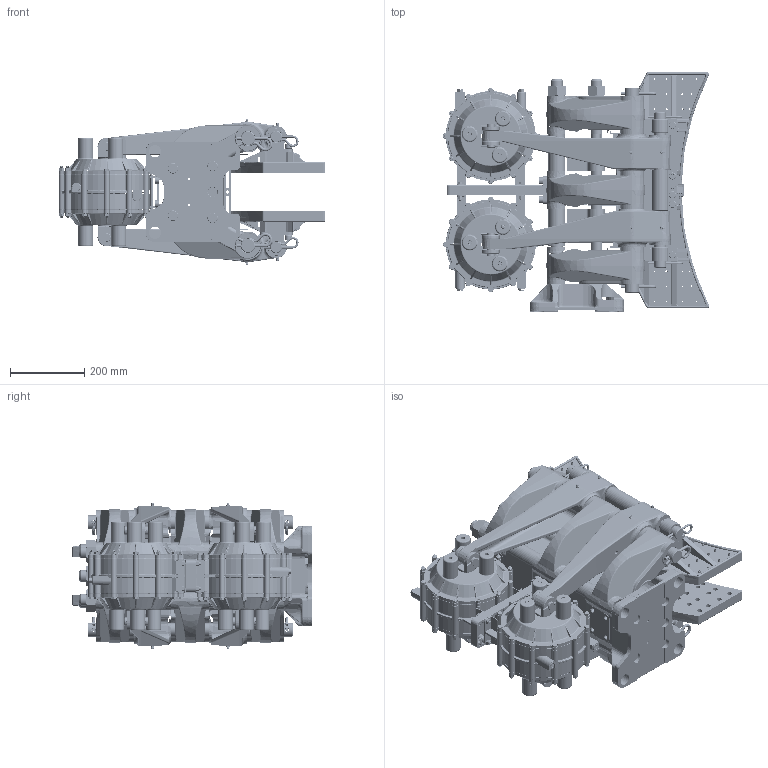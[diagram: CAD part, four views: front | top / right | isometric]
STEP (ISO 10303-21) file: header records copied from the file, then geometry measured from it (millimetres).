
FILE_DESCRIPTION (( 'STEP AP214' ), '1' );
FILE_NAME ('5030-A_revD.STEP', '2022-10-20T16:57:02', ( '' ), ( '' ), 'SwSTEP 2.0', 'SolidWorks 2021', '' );
FILE_SCHEMA (( 'AUTOMOTIVE_DESIGN' ));
Length unit declared in the file: inch
Products named in the file (1): 5030-A_revD
Bounding box: 717.35 x 644.52 x 394.04 mm (x, y, z)
Surface area: 3916952.3 mm2 (no closed solid volume)
Topology: 0 solids, 335 shells, 6893 faces, 22775 edges, 15403 vertices
Faces by surface type: cylinder 2592, plane 1611, bspline 1076, torus 864, cone 750
Entity records: 456058 total; most frequent: CARTESIAN_POINT 182354, DIRECTION 37861, ORIENTED_EDGE 35827, EDGE_CURVE 22745, AXIS2_PLACEMENT_3D 15517, VERTEX_POINT 15403, CIRCLE 9699, EDGE_LOOP 7885
